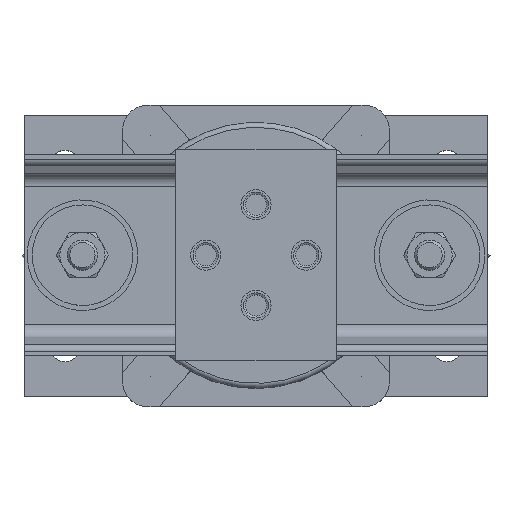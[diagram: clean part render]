
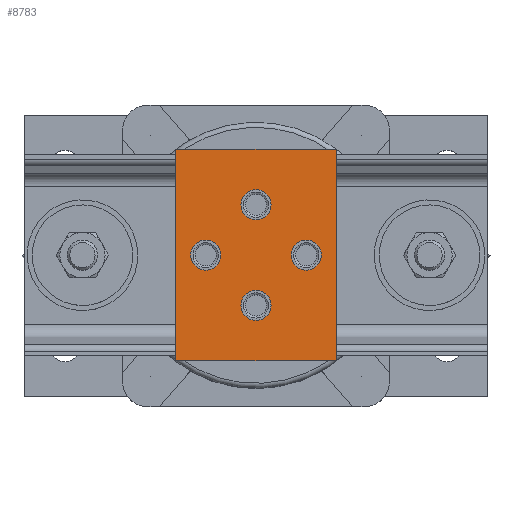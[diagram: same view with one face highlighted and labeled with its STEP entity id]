
A CAD part, top view. The second image highlights one B-rep face of the part: STEP entity #8783.
In plain terms, the highlighted planar face has unit normal (0, 0, 1).
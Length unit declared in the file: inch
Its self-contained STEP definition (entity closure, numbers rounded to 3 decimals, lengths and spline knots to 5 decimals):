
#592=FACE_BOUND('',#1925,.T.);
#593=FACE_BOUND('',#1926,.T.);
#594=FACE_BOUND('',#1927,.T.);
#595=FACE_BOUND('',#1928,.T.);
#834=CIRCLE('',#9512,0.375);
#836=CIRCLE('',#9515,0.375);
#838=CIRCLE('',#9518,0.375);
#840=CIRCLE('',#9521,0.375);
#1297=FACE_OUTER_BOUND('',#1924,.T.);
#1924=EDGE_LOOP('',(#6364,#6365,#6366,#6367));
#1925=EDGE_LOOP('',(#6368));
#1926=EDGE_LOOP('',(#6369));
#1927=EDGE_LOOP('',(#6370));
#1928=EDGE_LOOP('',(#6371));
#2542=LINE('',#13563,#3096);
#2546=LINE('',#13571,#3100);
#2549=LINE('',#13577,#3103);
#2552=LINE('',#13582,#3106);
#3096=VECTOR('',#11020,5.25);
#3100=VECTOR('',#11026,4.);
#3103=VECTOR('',#11031,5.25);
#3106=VECTOR('',#11036,4.);
#3749=VERTEX_POINT('',#13543);
#3751=VERTEX_POINT('',#13548);
#3753=VERTEX_POINT('',#13553);
#3755=VERTEX_POINT('',#13558);
#3756=VERTEX_POINT('',#13561);
#3757=VERTEX_POINT('',#13562);
#3760=VERTEX_POINT('',#13570);
#3762=VERTEX_POINT('',#13576);
#4684=EDGE_CURVE('',#3749,#3749,#834,.T.);
#4686=EDGE_CURVE('',#3751,#3751,#836,.T.);
#4688=EDGE_CURVE('',#3753,#3753,#838,.T.);
#4690=EDGE_CURVE('',#3755,#3755,#840,.T.);
#4691=EDGE_CURVE('',#3756,#3757,#2542,.T.);
#4695=EDGE_CURVE('',#3757,#3760,#2546,.T.);
#4698=EDGE_CURVE('',#3760,#3762,#2549,.T.);
#4701=EDGE_CURVE('',#3762,#3756,#2552,.T.);
#6364=ORIENTED_EDGE('',*,*,#4691,.F.);
#6365=ORIENTED_EDGE('',*,*,#4701,.F.);
#6366=ORIENTED_EDGE('',*,*,#4698,.F.);
#6367=ORIENTED_EDGE('',*,*,#4695,.F.);
#6368=ORIENTED_EDGE('',*,*,#4684,.T.);
#6369=ORIENTED_EDGE('',*,*,#4686,.T.);
#6370=ORIENTED_EDGE('',*,*,#4688,.T.);
#6371=ORIENTED_EDGE('',*,*,#4690,.T.);
#7772=PLANE('',#9526);
#8783=ADVANCED_FACE('',(#1297,#592,#593,#594,#595),#7772,.T.);
#9512=AXIS2_PLACEMENT_3D('',#13544,#10998,#10999);
#9515=AXIS2_PLACEMENT_3D('',#13549,#11004,#11005);
#9518=AXIS2_PLACEMENT_3D('',#13554,#11010,#11011);
#9521=AXIS2_PLACEMENT_3D('',#13559,#11016,#11017);
#9526=AXIS2_PLACEMENT_3D('',#13584,#11038,#11039);
#10998=DIRECTION('center_axis',(0.,0.,
-1.));
#10999=DIRECTION('ref_axis',(-1.,0.,0.));
#11004=DIRECTION('center_axis',(0.,0.,
-1.));
#11005=DIRECTION('ref_axis',(-1.,0.,0.));
#11010=DIRECTION('center_axis',(0.,0.,
-1.));
#11011=DIRECTION('ref_axis',(-1.,0.,0.));
#11016=DIRECTION('center_axis',(0.,0.,
-1.));
#11017=DIRECTION('ref_axis',(-1.,0.,0.));
#11020=DIRECTION('',(0.,1.,0.));
#11026=DIRECTION('',(1.,0.,0.));
#11031=DIRECTION('',(0.,-1.,0.));
#11036=DIRECTION('',(-1.,0.,0.));
#11038=DIRECTION('center_axis',(0.,0.,
1.));
#11039=DIRECTION('ref_axis',(-1.,0.,0.));
#13543=CARTESIAN_POINT('',(0.875,0.,13.875));
#13544=CARTESIAN_POINT('Origin',(1.25,0.,13.875));
#13548=CARTESIAN_POINT('',(-0.375,1.25,13.875));
#13549=CARTESIAN_POINT('Origin',(0.,1.25,13.875));
#13553=CARTESIAN_POINT('',(-1.625,0.,13.875));
#13554=CARTESIAN_POINT('Origin',(-1.25,0.,13.875));
#13558=CARTESIAN_POINT('',(-0.375,-1.25,13.875));
#13559=CARTESIAN_POINT('Origin',(0.,-1.25,13.875));
#13561=CARTESIAN_POINT('',(-2.,-2.625,13.875));
#13562=CARTESIAN_POINT('',(-2.,2.625,13.875));
#13563=CARTESIAN_POINT('',(-2.,-2.625,13.875));
#13570=CARTESIAN_POINT('',(2.,2.625,13.875));
#13571=CARTESIAN_POINT('',(-2.,2.625,13.875));
#13576=CARTESIAN_POINT('',(2.,-2.625,13.875));
#13577=CARTESIAN_POINT('',(2.,2.625,13.875));
#13582=CARTESIAN_POINT('',(2.,-2.625,13.875));
#13584=CARTESIAN_POINT('Origin',(0.,0.,
13.875));
